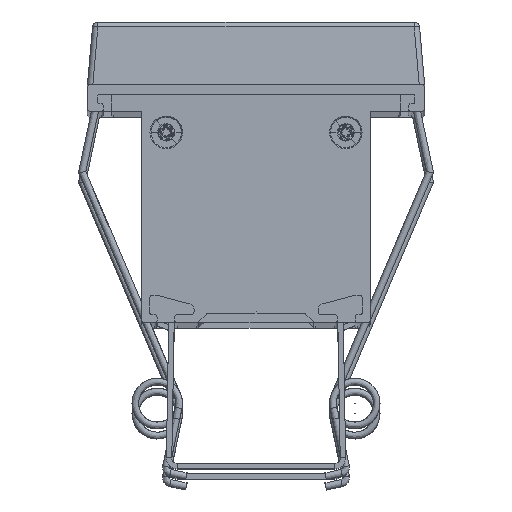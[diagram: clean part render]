
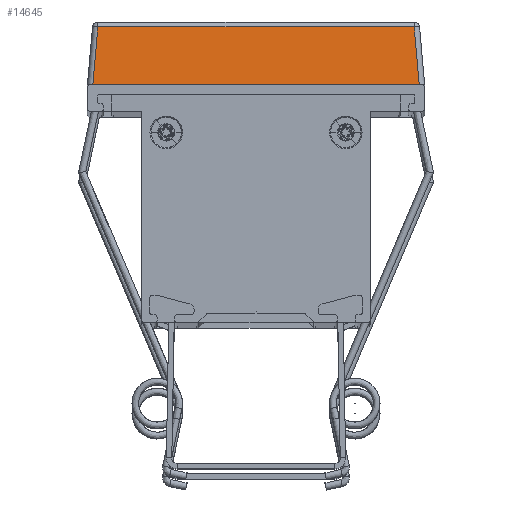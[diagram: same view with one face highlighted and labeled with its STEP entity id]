
A CAD part, top view. The second image highlights one B-rep face of the part: STEP entity #14645.
In plain terms, the highlighted planar face has unit normal (0, 0.087, 0.996) as drawn and (-0.996, 0.087, 0) by its records, which use the part's own axes.
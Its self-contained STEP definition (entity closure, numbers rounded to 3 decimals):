
#98 = CARTESIAN_POINT ( 'NONE',  ( -143.508, -0.086, 30.011 ) ) ;
#930 = LINE ( 'NONE', #98, #7873 ) ;
#1035 = DIRECTION ( 'NONE',  ( -0.087, -0.992, -0.087 ) ) ;
#1263 = LINE ( 'NONE', #15654, #17051 ) ;
#1985 = VECTOR ( 'NONE', #9549, 1000. ) ;
#2647 = ORIENTED_EDGE ( 'NONE', *, *, #5925, .T. ) ;
#3163 = EDGE_CURVE ( 'NONE', #16631, #3887, #930, .T. ) ;
#3887 = VERTEX_POINT ( 'NONE', #8743 ) ;
#4827 = DIRECTION ( 'NONE',  ( -0.087, -0.996, 0. ) ) ;
#4989 = CARTESIAN_POINT ( 'NONE',  ( -142.574, 10.587, -29.078 ) ) ;
#5925 = EDGE_CURVE ( 'NONE', #9400, #16631, #1263, .T. ) ;
#6156 = DIRECTION ( 'NONE',  ( 0., 0., 1. ) ) ;
#6791 = LINE ( 'NONE', #16005, #10041 ) ;
#7873 = VECTOR ( 'NONE', #16185, 1000. ) ;
#8000 = AXIS2_PLACEMENT_3D ( 'NONE', #15579, #13013, #4827 ) ;
#8336 = VERTEX_POINT ( 'NONE', #4989 ) ;
#8743 = CARTESIAN_POINT ( 'NONE',  ( -142.574, 10.587, 29.078 ) ) ;
#8947 = PLANE ( 'NONE',  #8000 ) ;
#9211 = EDGE_CURVE ( 'NONE', #8336, #9400, #6791, .T. ) ;
#9400 = VERTEX_POINT ( 'NONE', #9839 ) ;
#9549 = DIRECTION ( 'NONE',  ( 0., 0., -1. ) ) ;
#9753 = LINE ( 'NONE', #12195, #1985 ) ;
#9839 = CARTESIAN_POINT ( 'NONE',  ( -143.5, 0., -30.004 ) ) ;
#10041 = VECTOR ( 'NONE', #1035, 1000. ) ;
#10709 = EDGE_LOOP ( 'NONE', ( #2647, #17609, #10837, #13755 ) ) ;
#10837 = ORIENTED_EDGE ( 'NONE', *, *, #14285, .T. ) ;
#11023 = FACE_OUTER_BOUND ( 'NONE', #10709, .T. ) ;
#12195 = CARTESIAN_POINT ( 'NONE',  ( -142.574, 10.587, -29.994 ) ) ;
#13013 = DIRECTION ( 'NONE',  ( -0.996, 0.087, 0. ) ) ;
#13085 = CARTESIAN_POINT ( 'NONE',  ( -143.5, 0., 30.004 ) ) ;
#13755 = ORIENTED_EDGE ( 'NONE', *, *, #9211, .T. ) ;
#14285 = EDGE_CURVE ( 'NONE', #3887, #8336, #9753, .T. ) ;
#14645 = ADVANCED_FACE ( 'NONE', ( #11023 ), #8947, .T. ) ;
#15579 = CARTESIAN_POINT ( 'NONE',  ( -143.5, 0., 31. ) ) ;
#15654 = CARTESIAN_POINT ( 'NONE',  ( -143.5, 0., 31. ) ) ;
#16005 = CARTESIAN_POINT ( 'NONE',  ( -143.04, 5.257, -29.544 ) ) ;
#16185 = DIRECTION ( 'NONE',  ( 0.087, 0.992, -0.087 ) ) ;
#16631 = VERTEX_POINT ( 'NONE', #13085 ) ;
#17051 = VECTOR ( 'NONE', #6156, 1000. ) ;
#17609 = ORIENTED_EDGE ( 'NONE', *, *, #3163, .T. ) ;
